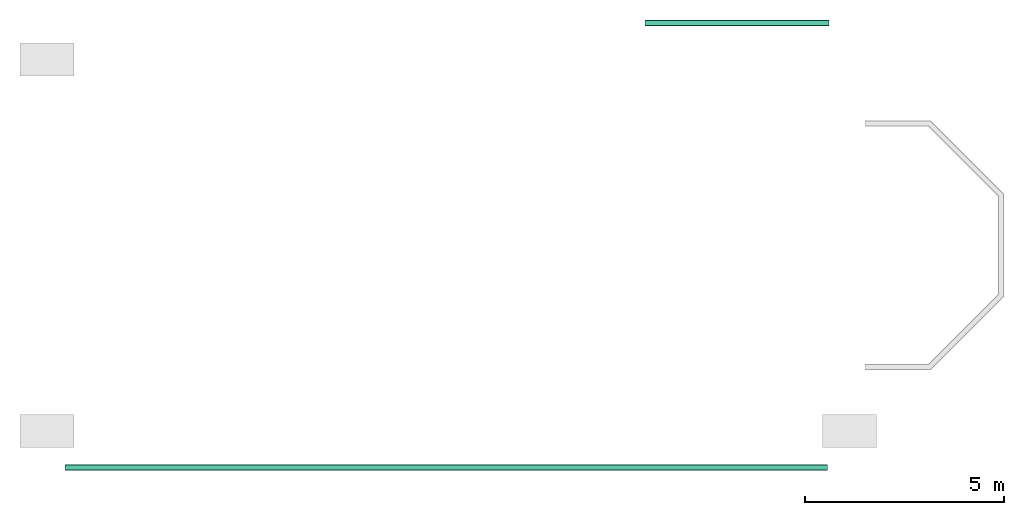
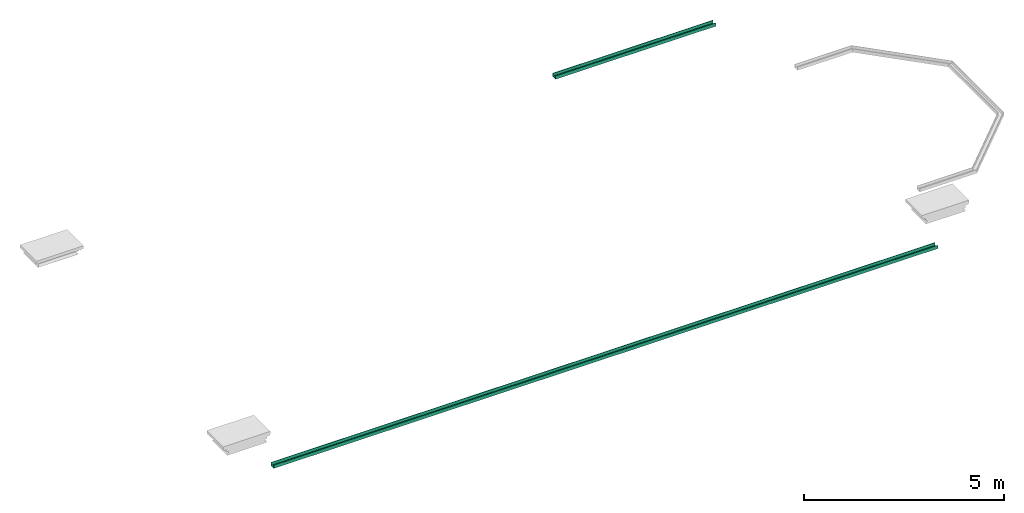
# One storey, part 1 of 4: 2 flow segments.
"""IFC2X3 building model written with IfcOpenShell, lengths in metres."""

from ifc_helpers import new_model, entity, si_unit, converted_unit, derived_unit, direction, frame, origin, place, context, subcontext, project, spatial, polyline, outline, extrude, source, transform, mapped, type_object, type_shapes, element, save


model = new_model("IFC2X3")

# Units and contexts
model_context = context("Model", 3, precision=1e-05, world=origin(), true_north=direction((6.12303176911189e-17, 1.0)))
plan_context = context("Plan", 3, precision=1e-05, world=origin(), true_north=direction((6.12303176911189e-17, 1.0)))
body_context = subcontext(model_context, "Body", "Model", "MODEL_VIEW")
ifc_project = project(units=[si_unit("LENGTHUNIT", "METRE"), si_unit("AREAUNIT", "SQUARE_METRE"), si_unit("VOLUMEUNIT", "CUBIC_METRE"), converted_unit("PLANEANGLEUNIT", "DEGREE", entity("IfcRatioMeasure", 0.0174532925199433), si_unit("PLANEANGLEUNIT", "RADIAN"), dimensions=[0, 0, 0, 0, 0, 0, 0]), si_unit("MASSUNIT", "GRAM", prefix="KILO"), derived_unit("MASSDENSITYUNIT", [(si_unit("MASSUNIT", "GRAM", prefix="KILO"), 1), (si_unit("LENGTHUNIT", "METRE"), -3)]), derived_unit("MOMENTOFINERTIAUNIT", [(si_unit("LENGTHUNIT", "METRE"), 4)]), si_unit("TIMEUNIT", "SECOND"), si_unit("FREQUENCYUNIT", "HERTZ"), si_unit("THERMODYNAMICTEMPERATUREUNIT", "DEGREE_CELSIUS"), derived_unit("THERMALTRANSMITTANCEUNIT", [(si_unit("MASSUNIT", "GRAM", prefix="KILO"), 1), (si_unit("THERMODYNAMICTEMPERATUREUNIT", "KELVIN"), -1), (si_unit("TIMEUNIT", "SECOND"), -3)]), derived_unit("VOLUMETRICFLOWRATEUNIT", [(si_unit("LENGTHUNIT", "METRE"), 3), (si_unit("TIMEUNIT", "SECOND"), -1)]), derived_unit("MASSFLOWRATEUNIT", [(si_unit("MASSUNIT", "GRAM", prefix="KILO"), 1), (si_unit("TIMEUNIT", "SECOND"), -1)]), derived_unit("ROTATIONALFREQUENCYUNIT", [(si_unit("TIMEUNIT", "SECOND"), -1)]), si_unit("ELECTRICCURRENTUNIT", "AMPERE"), si_unit("ELECTRICVOLTAGEUNIT", "VOLT"), si_unit("POWERUNIT", "WATT"), si_unit("FORCEUNIT", "NEWTON", prefix="KILO"), si_unit("ILLUMINANCEUNIT", "LUX"), si_unit("LUMINOUSFLUXUNIT", "LUMEN"), si_unit("LUMINOUSINTENSITYUNIT", "CANDELA"), derived_unit("USERDEFINED", [(si_unit("MASSUNIT", "GRAM", prefix="KILO"), -1), (si_unit("LENGTHUNIT", "METRE"), -2), (si_unit("TIMEUNIT", "SECOND"), 3), (si_unit("LUMINOUSFLUXUNIT", "LUMEN"), 1)]), derived_unit("SOUNDPOWERUNIT", [(si_unit("MASSUNIT", "GRAM", prefix="KILO"), 1), (si_unit("LENGTHUNIT", "METRE"), 2), (si_unit("TIMEUNIT", "SECOND"), -3)]), derived_unit("SOUNDPRESSUREUNIT", [(si_unit("MASSUNIT", "GRAM", prefix="KILO"), 1), (si_unit("LENGTHUNIT", "METRE"), -1), (si_unit("TIMEUNIT", "SECOND"), -2)]), derived_unit("LINEARVELOCITYUNIT", [(si_unit("LENGTHUNIT", "METRE"), 1), (si_unit("TIMEUNIT", "SECOND"), -1)]), si_unit("PRESSUREUNIT", "PASCAL"), derived_unit("USERDEFINED", [(si_unit("LENGTHUNIT", "METRE"), -2), (si_unit("MASSUNIT", "GRAM", prefix="KILO"), 1), (si_unit("TIMEUNIT", "SECOND"), -2)]), derived_unit("LINEARFORCEUNIT", [(si_unit("MASSUNIT", "GRAM", prefix="KILO"), 1), (si_unit("LENGTHUNIT", "METRE"), 1), (si_unit("TIMEUNIT", "SECOND"), -2), (si_unit("LENGTHUNIT", "METRE"), -1)]), derived_unit("PLANARFORCEUNIT", [(si_unit("MASSUNIT", "GRAM", prefix="KILO"), 1), (si_unit("LENGTHUNIT", "METRE"), 1), (si_unit("TIMEUNIT", "SECOND"), -2), (si_unit("LENGTHUNIT", "METRE"), -2)])], contexts=[model_context, plan_context])

# Site, building, storey
site_placement = place(None, frame((-11.0823275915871, 23.8300534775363, 0.0)))
site = spatial("IfcSite", under=ifc_project, at=site_placement, Name="Default", CompositionType="ELEMENT")
building_placement = place(site_placement, origin())
building = spatial("IfcBuilding", under=site, at=building_placement, Name="Englische Kirche", CompositionType="ELEMENT")
storey_placement = place(building_placement, frame((0.0, 0.0, 6.74999999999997)))
storey = spatial("IfcBuildingStorey", under=building, at=storey_placement, Name="Ebene 2 Gallery Stage 1", CompositionType="ELEMENT", Elevation=6.74999999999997)

# Flow segments
pipe_segment_type_1 = type_object("IfcPipeSegmentType", Name="Rinne:Dachrinne 150 x 100:4041", PredefinedType="GUTTER")
shared_shape_1 = source(origin(), body_context, "Body", "SweptSolid", [
    extrude(outline(polyline([(-0.0537500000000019, -0.074999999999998), (0.0462499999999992, -0.074999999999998), (0.0462499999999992, -0.0599999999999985), (-0.038750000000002, -0.0599999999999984), (-0.038750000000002, 0.0599999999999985), (0.0462499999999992, 0.0599999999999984), (0.0462500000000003, 0.0749999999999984), (-0.0537500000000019, 0.0749999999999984), (-0.0537500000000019, -0.074999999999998)])), frame((0.463800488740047, -0.740019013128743, 2.88775000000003), z_axis=(1.0, 0.0, 0.0), x_axis=(0.0, 0.0, 1.0)), (0.0, 0.0, 1.0), 19.2062235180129),
])
type_shapes(pipe_segment_type_1, [shared_shape_1])
flow_segment_1_placement = place(storey_placement, origin())
element("IfcFlowSegment", 1, at=flow_segment_1_placement, inside=storey, type_object=pipe_segment_type_1, Name="Rinne:Dachrinne 150 x 100", ObjectType="Rinne:Dachrinne 150 x 100", context=body_context, shape_type="MappedRepresentation", body=[
    mapped(shared_shape_1, transform((0.0, 0.0, 0.0), scale=1.0)),
])
pipe_segment_type_2 = type_object("IfcPipeSegmentType", Name="Rinne:Dachrinne 150 x 100:4041", PredefinedType="GUTTER")
shared_shape_2 = source(origin(), body_context, "Body", "SweptSolid", [
    extrude(outline(polyline([(-0.0749999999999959, -0.0537500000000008), (0.0750000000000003, -0.0537500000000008), (0.0750000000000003, 0.0462500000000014), (0.0599999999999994, 0.0462500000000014), (0.0599999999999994, -0.0387500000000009), (-0.0599999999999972, -0.0387500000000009), (-0.0599999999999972, 0.0462500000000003), (-0.0749999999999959, 0.0462500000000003), (-0.0749999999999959, -0.0537500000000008)])), frame((15.0724547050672, 10.4489809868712, 2.88775000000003), z_axis=(1.0, 0.0, 0.0), x_axis=(0.0, 1.0, 0.0)), (0.0, 0.0, 1.0), 4.63756930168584),
])
type_shapes(pipe_segment_type_2, [shared_shape_2])
flow_segment_2_placement = place(storey_placement, origin())
element("IfcFlowSegment", 2, at=flow_segment_2_placement, inside=storey, type_object=pipe_segment_type_2, Name="Rinne:Dachrinne 150 x 100", ObjectType="Rinne:Dachrinne 150 x 100", context=body_context, shape_type="MappedRepresentation", body=[
    mapped(shared_shape_2, transform((0.0, 0.0, 0.0), scale=1.0)),
])

save(model, "model.ifc")
